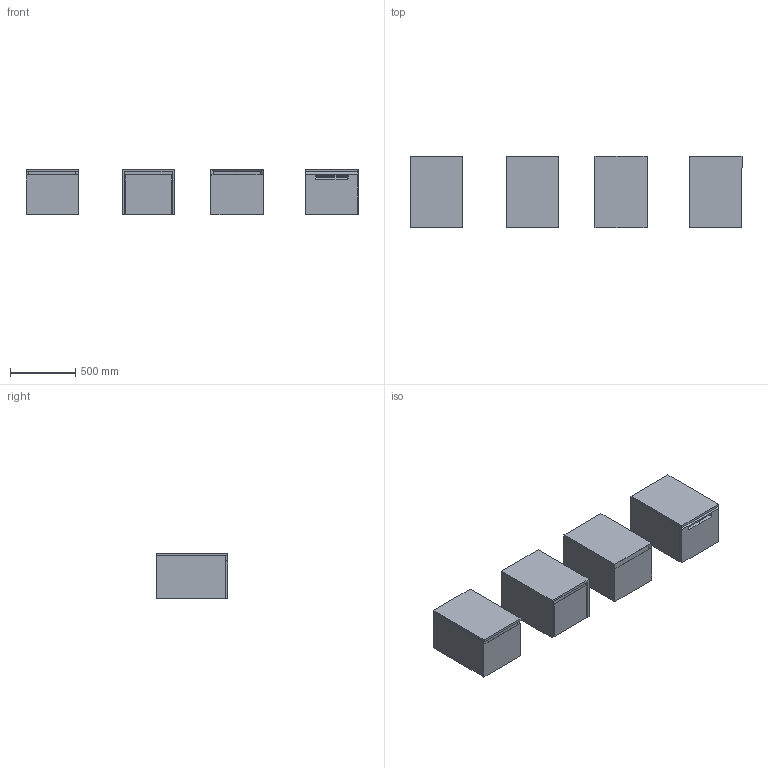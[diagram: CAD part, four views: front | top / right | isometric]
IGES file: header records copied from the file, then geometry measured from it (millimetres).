
Global section: file name: \\Archi-NAS\Comune\X GIOVANNI\MOBILI\COIFFEUSE\COIFFEUSE_cabinets_5.igs; native system: Rhinoceros ( Jan 17 2018 ); preprocessor: Trout Lake IGES 012 Jan 17 2018; date: 230608.092050; units: millimetre
Bounding box: 2539.92 x 550 x 350 mm (x, y, z)
Surface area: 11847858 mm2 (no closed solid volume)
Topology: 0 solids, 0 shells, 278 faces, 4308 edges, 4308 vertices
Faces by surface type: bspline 278
